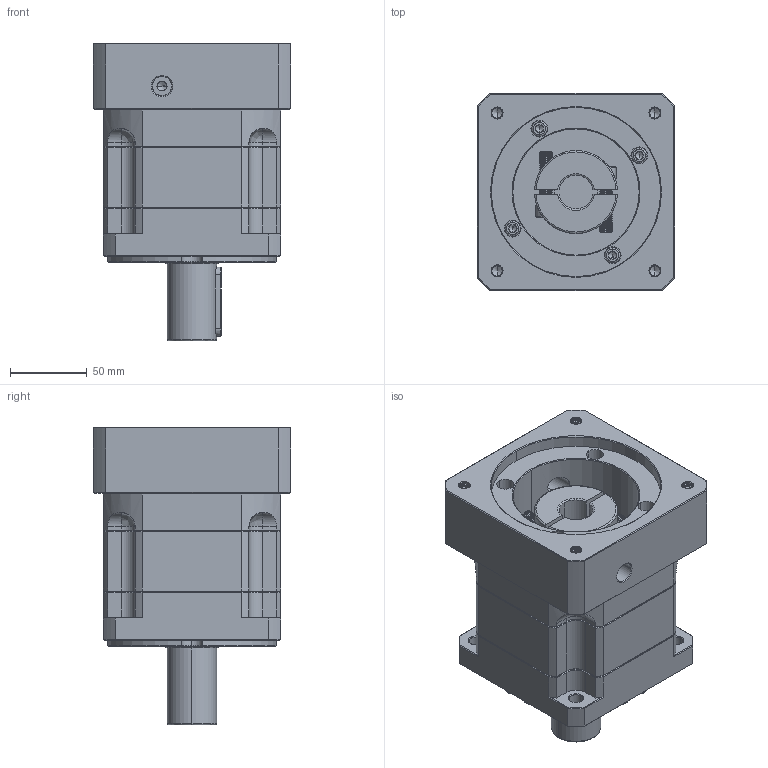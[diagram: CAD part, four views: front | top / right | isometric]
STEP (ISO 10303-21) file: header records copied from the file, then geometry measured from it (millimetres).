
FILE_DESCRIPTION (( 'STEP AP214' ), '1' );
FILE_NAME ('ZB115A-D32-L1-P2-22-110-145-M8.step', '2023-08-26T06:28:38', ( '' ), ( '' ), 'SwSTEP 2.0', 'SolidWorks 2016', '' );
FILE_SCHEMA (( 'AUTOMOTIVE_DESIGN' ));
Length unit declared in the file: millimetre
Products named in the file (1): ZB115A-D32-L1-P2-22-110-145-M8
Bounding box: 128 x 128 x 193.5 mm (x, y, z)
Volume: 1628557.5 mm3; surface area: 179073.4 mm2
Topology: 6 solids, 6 shells, 2392 faces, 6281 edges, 3988 vertices
Faces by surface type: plane 1143, cylinder 439, bspline 423, cone 367, torus 20
Entity records: 129315 total; most frequent: CARTESIAN_POINT 47637, ORIENTED_EDGE 12494, DIRECTION 9885, EDGE_CURVE 6247, LINE 3995, VECTOR 3995, VERTEX_POINT 3988, AXIS2_PLACEMENT_3D 2945
